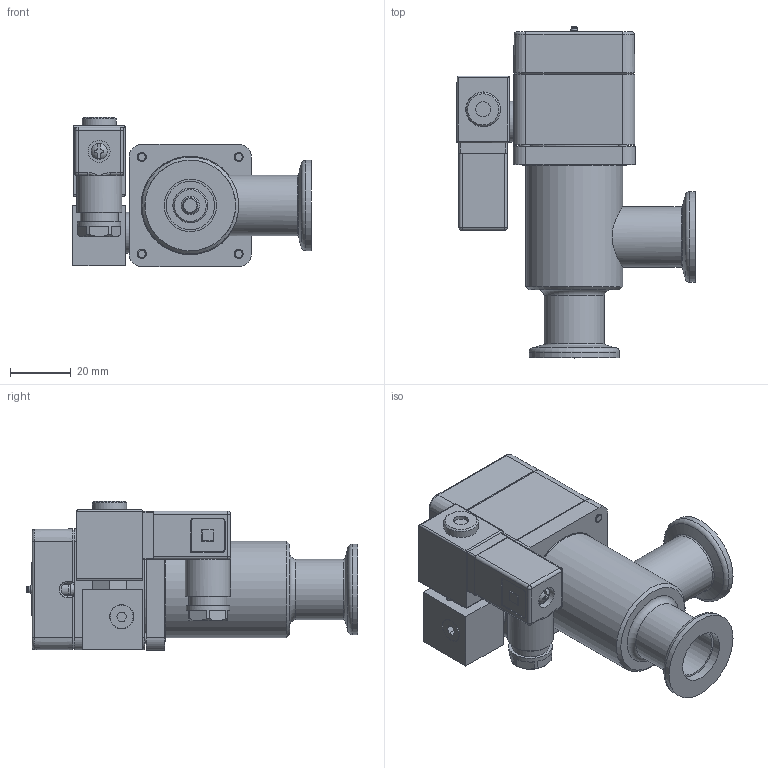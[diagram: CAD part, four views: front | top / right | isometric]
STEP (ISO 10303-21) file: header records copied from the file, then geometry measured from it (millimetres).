
FILE_DESCRIPTION(/* description */ (''),/* implementation_level */ '2;1');
FILE_NAME(/* name */ '1387865166_203.stp',/* time_stamp */ '2021-04-22T06:54:17+02:00',/* author */ (''),/* organization */ (''),/* preprocessor_version */ 'ST-DEVELOPER v16.7',/* originating_system */ 'SIEMENS PLM Software NX 1915',/* authorisation */ '');
FILE_SCHEMA (('AP203_CONFIGURATION_CONTROLLED_3D_DESIGN_OF_MECHANICAL_PARTS_AND_ASSEMBLIES_MIM_LF { 1 0 10303 403 2 1 2}'));
Length unit declared in the file: millimetre
Products named in the file (17): 467882; 437235; 244091.2; 236208.2; 233364; 236204_1.1; 245709.2; 245708.5; 245707.4; 234225.1; 228218.16; 230165.10; N-8501-400.2_MODELNX-ARRAGMNTArrangement 1; 402917; 402885_NX-ARRAGMNTLAGEMELDERZEICHNUNG; 245706.10; 325500.4
Assembly tree (22 placements, depth 4):
  325500.4
    230165.10  x2
    228218.16
    245706.10
      245707.4
      245708.5
      245709.2
    402885_NX-ARRAGMNTLAGEMELDERZEICHNUNG
      236204_1.1  x2
      233364
      236208.2  x2
    402917
      244091.2
      N-8501-400.2_MODELNX-ARRAGMNTArrangement 1
        437235
        467882
    234225.1  x4
Bounding box: 78.85 x 109.7 x 49.3 mm (x, y, z)
Volume: 83293.8 mm3; surface area: 60525.1 mm2
Topology: 19 solids, 20 shells, 811 faces, 2013 edges, 1305 vertices
Faces by surface type: plane 479, cylinder 174, cone 96, bspline 28, torus 27, sphere 7
Full cylindrical faces by diameter (mm): 1.8 x1, 2 x8, 2.2 x4, 2.3 x2, 2.5 x3, 3 x13, 3.3 x4, 4 x2, 4.2 x1, 4.22 x1, 4.7 x2, 4.8 x2, 4.9 x2, 5 x3, 5.1 x2, 5.4 x1, 5.5 x4, 5.6 x2, 5.984 x6, 6 x1, 6.01 x2, 7 x1, 7.2 x1, 7.4 x1, 7.6 x1, 7.9 x1, 8 x1, 8.85 x1, 10.2 x1, 11.3 x1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
Entity records: 22718 total; most frequent: CARTESIAN_POINT 4868, DIRECTION 3297, ORIENTED_EDGE 3078, EDGE_CURVE 1539, AXIS2_PLACEMENT_3D 1162, VERTEX_POINT 1103, LINE 973, VECTOR 973
